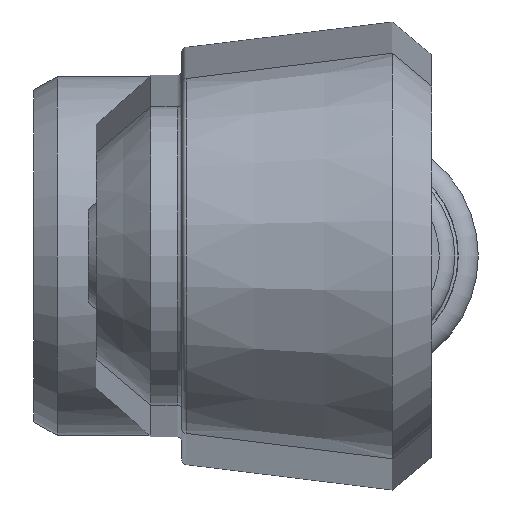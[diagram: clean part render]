
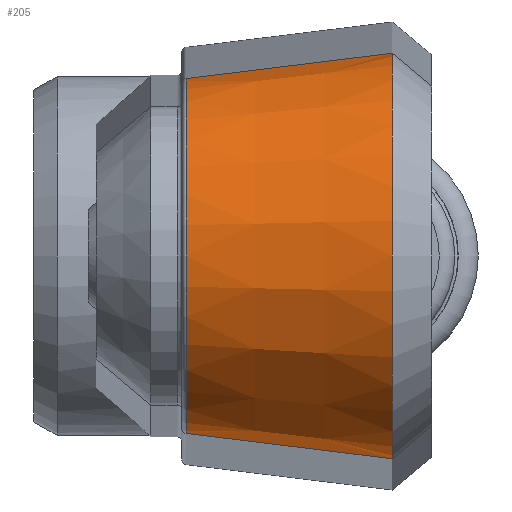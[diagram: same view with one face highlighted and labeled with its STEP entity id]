
A CAD part, front view. The second image highlights one B-rep face of the part: STEP entity #205.
In plain terms, the highlighted conical face has half-angle 7 degrees and reference radius 13 mm.
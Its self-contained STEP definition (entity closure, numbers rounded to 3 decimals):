
#205 = ADVANCED_FACE( '', ( #345 ), #346, .T. );
#345 = FACE_OUTER_BOUND( '', #615, .T. );
#346 = CONICAL_SURFACE( '', #616, 13., 0.122 );
#615 = EDGE_LOOP( '', ( #1024, #1025, #1026, #1027 ) );
#616 = AXIS2_PLACEMENT_3D( '', #1028, #1029, #1030 );
#1024 = ORIENTED_EDGE( '', *, *, #1557, .F. );
#1025 = ORIENTED_EDGE( '', *, *, #1540, .F. );
#1026 = ORIENTED_EDGE( '', *, *, #1558, .T. );
#1027 = ORIENTED_EDGE( '', *, *, #1554, .T. );
#1028 = CARTESIAN_POINT( '', ( 13.996, -80., 0. ) );
#1029 = DIRECTION( '', ( 1., 0., 0. ) );
#1030 = DIRECTION( '', ( 0., 0., -1. ) );
#1540 = EDGE_CURVE( '', #1829, #1831, #1832, .T. );
#1554 = EDGE_CURVE( '', #1840, #1855, #1857, .T. );
#1557 = EDGE_CURVE( '', #1831, #1855, #1860, .T. );
#1558 = EDGE_CURVE( '', #1829, #1840, #1861, .T. );
#1829 = VERTEX_POINT( '', #2308 );
#1831 = VERTEX_POINT( '', #2311 );
#1832 = B_SPLINE_CURVE_WITH_KNOTS( '', 3, ( #2312, #2313, #2314, #2315 ), .UNSPECIFIED., .F., .F., ( 4, 4 ), ( 0., 0.778 ), .UNSPECIFIED. );
#1840 = VERTEX_POINT( '', #2337 );
#1855 = VERTEX_POINT( '', #2376 );
#1857 = B_SPLINE_CURVE_WITH_KNOTS( '', 3, ( #2381, #2382, #2383, #2384 ), .UNSPECIFIED., .F., .F., ( 4, 4 ), ( 0., 1. ), .UNSPECIFIED. );
#1860 = CIRCLE( '', #2387, 11.375 );
#1861 = CIRCLE( '', #2388, 13. );
#2308 = CARTESIAN_POINT( '', ( 13.996, -80., -13. ) );
#2311 = CARTESIAN_POINT( '', ( 0.763, -80., -11.375 ) );
#2312 = CARTESIAN_POINT( '', ( 13.996, -80., -13. ) );
#2313 = CARTESIAN_POINT( '', ( 9.585, -80., -12.458 ) );
#2314 = CARTESIAN_POINT( '', ( 5.174, -80., -11.917 ) );
#2315 = CARTESIAN_POINT( '', ( 0.763, -80., -11.375 ) );
#2337 = CARTESIAN_POINT( '', ( 13.996, -80., 13. ) );
#2376 = CARTESIAN_POINT( '', ( 0.763, -80., 11.375 ) );
#2381 = CARTESIAN_POINT( '', ( 13.996, -80., 13. ) );
#2382 = CARTESIAN_POINT( '', ( 9.585, -80., 12.458 ) );
#2383 = CARTESIAN_POINT( '', ( 5.174, -80., 11.917 ) );
#2384 = CARTESIAN_POINT( '', ( 0.763, -80., 11.375 ) );
#2387 = AXIS2_PLACEMENT_3D( '', #2724, #2725, #2726 );
#2388 = AXIS2_PLACEMENT_3D( '', #2727, #2728, #2729 );
#2724 = CARTESIAN_POINT( '', ( 0.763, -80., 0. ) );
#2725 = DIRECTION( '', ( -1., 0., 0. ) );
#2726 = DIRECTION( '', ( 0., 0., 1. ) );
#2727 = CARTESIAN_POINT( '', ( 13.996, -80., 0. ) );
#2728 = DIRECTION( '', ( -1., 0., 0. ) );
#2729 = DIRECTION( '', ( 0., 0., 1. ) );
